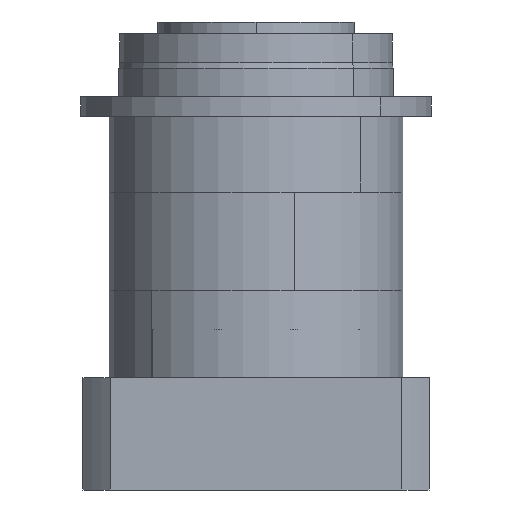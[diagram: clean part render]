
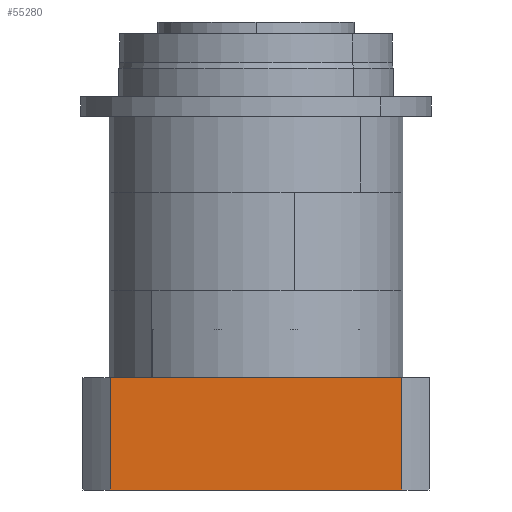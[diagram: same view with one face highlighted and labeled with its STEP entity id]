
A CAD part, left-side view. The second image highlights one B-rep face of the part: STEP entity #55280.
In plain terms, the highlighted planar face has unit normal (-1, 0, 0) as drawn and (0, 1, 0) by its records, which use the part's own axes.
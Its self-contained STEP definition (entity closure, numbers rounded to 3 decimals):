
#214 = DIRECTION ( 'NONE',  ( -1., 0., 0. ) ) ;
#601 = DIRECTION ( 'NONE',  ( 1., 0., 0. ) ) ;
#1132 = AXIS2_PLACEMENT_3D ( 'NONE', #17993, #52396, #26674 ) ;
#4847 = EDGE_CURVE ( 'NONE', #28640, #54836, #23555, .T. ) ;
#6932 = VECTOR ( 'NONE', #36309, 1000. ) ;
#9741 = FACE_OUTER_BOUND ( 'NONE', #22908, .T. ) ;
#10160 = CARTESIAN_POINT ( 'NONE',  ( 57., 88., 0. ) ) ;
#12721 = ORIENTED_EDGE ( 'NONE', *, *, #4847, .F. ) ;
#13326 = PLANE ( 'NONE',  #1132 ) ;
#15644 = ORIENTED_EDGE ( 'NONE', *, *, #52754, .F. ) ;
#17993 = CARTESIAN_POINT ( 'NONE',  ( 57., 88., -88. ) ) ;
#18329 = LINE ( 'NONE', #10160, #6932 ) ;
#19056 = CARTESIAN_POINT ( 'NONE',  ( 0., 88., -88. ) ) ;
#19348 = EDGE_CURVE ( 'NONE', #28640, #53549, #18329, .T. ) ;
#19923 = VECTOR ( 'NONE', #601, 1000. ) ;
#22206 = VECTOR ( 'NONE', #214, 1000. ) ;
#22908 = EDGE_LOOP ( 'NONE', ( #48442, #31833, #15644, #12721 ) ) ;
#23555 = LINE ( 'NONE', #30290, #22206 ) ;
#25886 = CARTESIAN_POINT ( 'NONE',  ( 57., 88., 74.034 ) ) ;
#26358 = CARTESIAN_POINT ( 'NONE',  ( 0., 88., -74.034 ) ) ;
#26674 = DIRECTION ( 'NONE',  ( 0., 0., -1. ) ) ;
#26715 = CARTESIAN_POINT ( 'NONE',  ( 0., 88., 74.034 ) ) ;
#28640 = VERTEX_POINT ( 'NONE', #25886 ) ;
#30290 = CARTESIAN_POINT ( 'NONE',  ( 0., 88., 74.034 ) ) ;
#31833 = ORIENTED_EDGE ( 'NONE', *, *, #39523, .F. ) ;
#35476 = LINE ( 'NONE', #26358, #19923 ) ;
#35724 = CARTESIAN_POINT ( 'NONE',  ( 57., 88., -74.034 ) ) ;
#36291 = VECTOR ( 'NONE', #45003, 1000. ) ;
#36309 = DIRECTION ( 'NONE',  ( 0., 0., -1. ) ) ;
#37620 = LINE ( 'NONE', #19056, #36291 ) ;
#39523 = EDGE_CURVE ( 'NONE', #47338, #53549, #35476, .T. ) ;
#45003 = DIRECTION ( 'NONE',  ( 0., 0., -1. ) ) ;
#47338 = VERTEX_POINT ( 'NONE', #48015 ) ;
#48015 = CARTESIAN_POINT ( 'NONE',  ( 0., 88., -74.034 ) ) ;
#48442 = ORIENTED_EDGE ( 'NONE', *, *, #19348, .T. ) ;
#52396 = DIRECTION ( 'NONE',  ( 0., -1., 0. ) ) ;
#52754 = EDGE_CURVE ( 'NONE', #54836, #47338, #37620, .T. ) ;
#53549 = VERTEX_POINT ( 'NONE', #35724 ) ;
#54836 = VERTEX_POINT ( 'NONE', #26715 ) ;
#55280 = ADVANCED_FACE ( 'NONE', ( #9741 ), #13326, .F. ) ;
